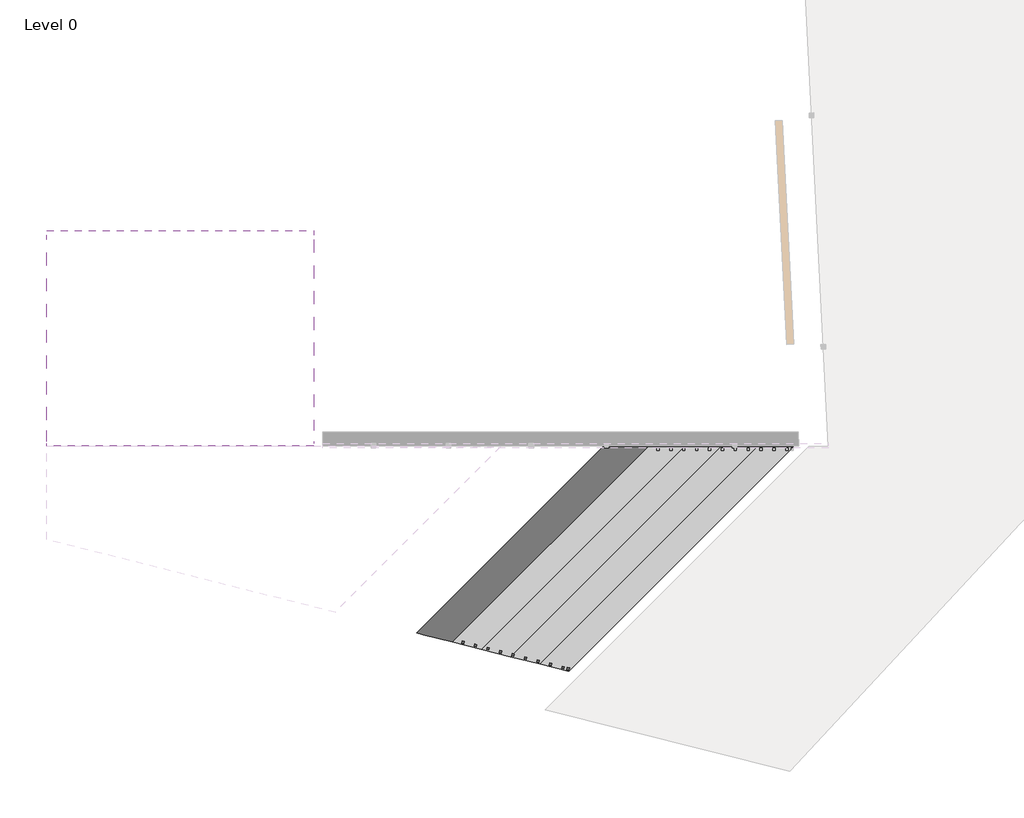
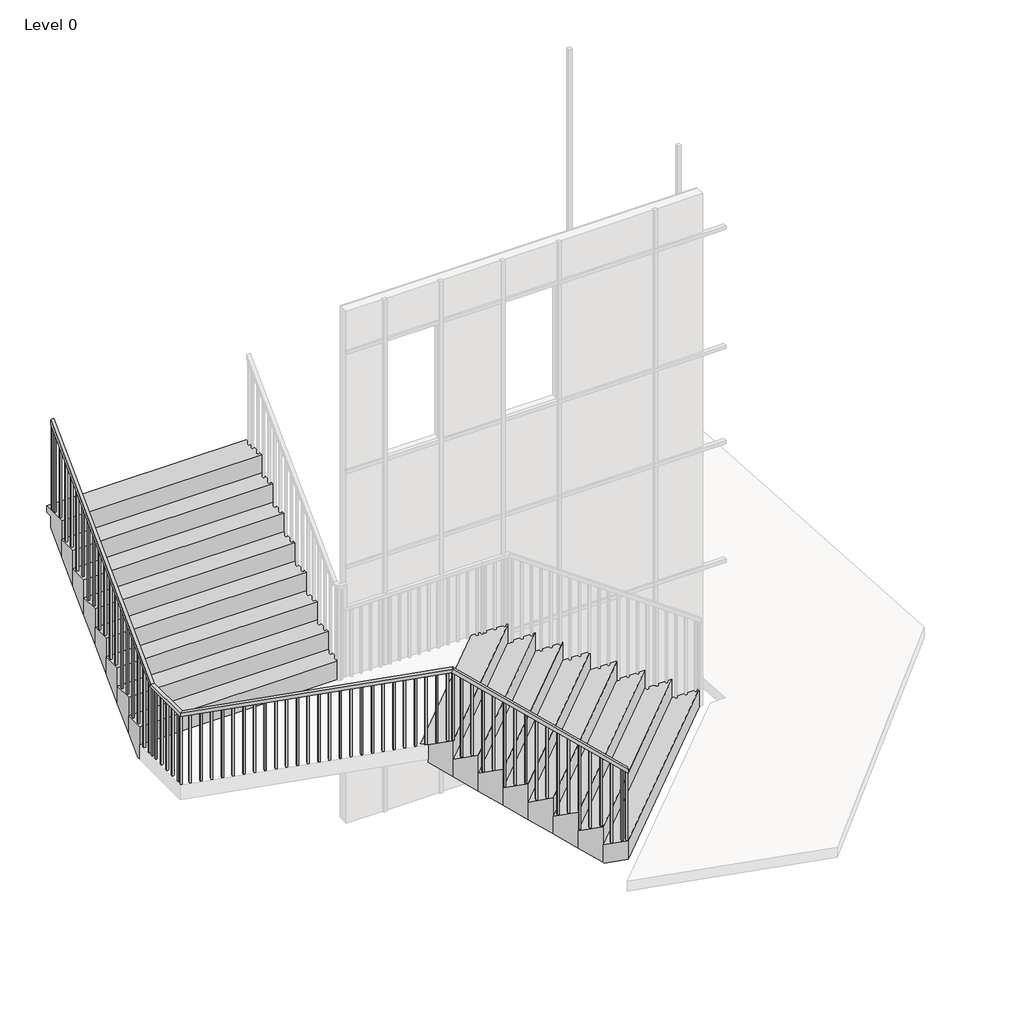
# One storey, part 4 of 6: 2 stair flights, 1 railing.
"""IFC4 building model written with IfcOpenShell, lengths in millimetres."""

from ifc_helpers import new_model, si_unit, frame, origin, place, context, project, spatial, polyline, outline, extrude, faceted_brep, element, save

model = new_model("IFC4")

# Units and contexts
model_context = context("Model", 3, world=origin())
ifc_project = project(units=[si_unit("LENGTHUNIT", "METRE", prefix="MILLI")], contexts=[model_context])

# Site, building, storey
site = spatial("IfcSite", under=ifc_project)
building = spatial("IfcBuilding", under=site)
storey = spatial("IfcBuildingStorey", under=building, Name="Level 0", Elevation=0.0)

# Railing
placement = place(None, origin())
element("IfcRailing", 1, ObjectType="1100mm", at=placement, inside=storey, context=model_context, shape_type="SolidModel", body=[
    faceted_brep([(10011.0513916, -20547.4262201, 1381.25), (10011.0513916, -20547.4262201, 1315.2160736), (10023.3046023, -20498.9508776, 1315.2160736), (10023.3046023, -20498.9508776, 1381.25), (7798.4711988, -19988.1478306, 3350.0), (7780.4514665, -19983.5929463, 3300.0), (7792.7046773, -19935.1176038, 3300.0), (7810.7244095, -19939.6724882, 3350.0), (4340.0961928, -19113.9673558, 3300.0), (4340.0961928, -19113.9673558, 3350.0), (4340.0961928, -18375.5937279, 3350.0), (4340.0961928, -18354.8177874, 3300.0), (4390.0961928, -19075.0333459, 3300.0), (4390.0961928, -18354.8177874, 3300.0), (4390.0961928, -19075.0333459, 3350.0), (4390.0961928, -18375.5937279, 3350.0), (4340.0961928, -15855.5937279, 5881.25), (4390.0961928, -15855.5937279, 5881.25), (4390.0961928, -15855.5937279, 5810.3813098), (4340.0961928, -15855.5937279, 5810.3813098)], [[[0, 1, 2, 3]], [[1, 0, 4, 5]], [[2, 1, 5, 6]], [[3, 2, 6, 7]], [[0, 3, 7, 4]], [[8, 9, 10, 11]], [[12, 8, 11, 13]], [[14, 12, 13, 15]], [[9, 14, 15, 10]], [[16, 17, 18, 19]], [[11, 10, 16, 19]], [[13, 11, 19, 18]], [[15, 13, 18, 17]], [[10, 15, 17, 16]], [[5, 4, 9, 8]], [[6, 5, 8, 12]], [[7, 6, 12, 14]], [[4, 7, 14, 9]]]),
    extrude(outline(polyline([(-15938.0937279, 5727.5130062), (-15913.0937279, 5752.6246134), (-15913.0937279, 4500.0), (-15938.0937279, 4500.0), (-15938.0937279, 5727.5130062)])), frame((4352.5961928, 0.0, 0.0), z_axis=(1.0, 0.0, 0.0), x_axis=(0.0, 1.0, 0.0)), (0.0, 0.0, 1.0), 25.0),
    extrude(outline(polyline([(-16078.0937279, 5586.8880062), (-16053.0937279, 5611.9996134), (-16053.0937279, 4500.0), (-16078.0937279, 4500.0), (-16078.0937279, 5586.8880062)])), frame((4352.5961928, 0.0, 0.0), z_axis=(1.0, 0.0, 0.0), x_axis=(0.0, 1.0, 0.0)), (0.0, 0.0, 1.0), 25.0),
    extrude(outline(polyline([(-16218.0937279, 5446.2630062), (-16193.0937279, 5471.3746134), (-16193.0937279, 4218.75), (-16218.0937279, 4218.75), (-16218.0937279, 5446.2630062)])), frame((4352.5961928, 0.0, 0.0), z_axis=(1.0, 0.0, 0.0), x_axis=(0.0, 1.0, 0.0)), (0.0, 0.0, 1.0), 25.0),
    extrude(outline(polyline([(-16358.0937279, 5305.6380062), (-16333.0937279, 5330.7496134), (-16333.0937279, 4218.75), (-16358.0937279, 4218.75), (-16358.0937279, 5305.6380062)])), frame((4352.5961928, 0.0, 0.0), z_axis=(1.0, 0.0, 0.0), x_axis=(0.0, 1.0, 0.0)), (0.0, 0.0, 1.0), 25.0),
    extrude(outline(polyline([(-16498.0937279, 5165.0130062), (-16473.0937279, 5190.1246134), (-16473.0937279, 3937.5), (-16498.0937279, 3937.5), (-16498.0937279, 5165.0130062)])), frame((4352.5961928, 0.0, 0.0), z_axis=(1.0, 0.0, 0.0), x_axis=(0.0, 1.0, 0.0)), (0.0, 0.0, 1.0), 25.0),
    extrude(outline(polyline([(-16638.0937279, 5024.3880062), (-16613.0937279, 5049.4996134), (-16613.0937279, 3937.5), (-16638.0937279, 3937.5), (-16638.0937279, 5024.3880062)])), frame((4352.5961928, 0.0, 0.0), z_axis=(1.0, 0.0, 0.0), x_axis=(0.0, 1.0, 0.0)), (0.0, 0.0, 1.0), 25.0),
    extrude(outline(polyline([(-16778.0937279, 4883.7630062), (-16753.0937279, 4908.8746134), (-16753.0937279, 3656.25), (-16778.0937279, 3656.25), (-16778.0937279, 4883.7630062)])), frame((4352.5961928, 0.0, 0.0), z_axis=(1.0, 0.0, 0.0), x_axis=(0.0, 1.0, 0.0)), (0.0, 0.0, 1.0), 25.0),
    extrude(outline(polyline([(-16918.0937279, 4743.1380062), (-16893.0937279, 4768.2496134), (-16893.0937279, 3656.25), (-16918.0937279, 3656.25), (-16918.0937279, 4743.1380062)])), frame((4352.5961928, 0.0, 0.0), z_axis=(1.0, 0.0, 0.0), x_axis=(0.0, 1.0, 0.0)), (0.0, 0.0, 1.0), 25.0),
    extrude(outline(polyline([(-17058.0937279, 4602.5130062), (-17033.0937279, 4627.6246134), (-17033.0937279, 3375.0), (-17058.0937279, 3375.0), (-17058.0937279, 4602.5130062)])), frame((4352.5961928, 0.0, 0.0), z_axis=(1.0, 0.0, 0.0), x_axis=(0.0, 1.0, 0.0)), (0.0, 0.0, 1.0), 25.0),
    extrude(outline(polyline([(-17198.0937279, 4461.8880062), (-17173.0937279, 4486.9996134), (-17173.0937279, 3375.0), (-17198.0937279, 3375.0), (-17198.0937279, 4461.8880062)])), frame((4352.5961928, 0.0, 0.0), z_axis=(1.0, 0.0, 0.0), x_axis=(0.0, 1.0, 0.0)), (0.0, 0.0, 1.0), 25.0),
    extrude(outline(polyline([(-17338.0937279, 4321.2630062), (-17313.0937279, 4346.3746134), (-17313.0937279, 3093.75), (-17338.0937279, 3093.75), (-17338.0937279, 4321.2630062)])), frame((4352.5961928, 0.0, 0.0), z_axis=(1.0, 0.0, 0.0), x_axis=(0.0, 1.0, 0.0)), (0.0, 0.0, 1.0), 25.0),
    extrude(outline(polyline([(-17478.0937279, 4180.6380062), (-17453.0937279, 4205.7496134), (-17453.0937279, 3093.75), (-17478.0937279, 3093.75), (-17478.0937279, 4180.6380062)])), frame((4352.5961928, 0.0, 0.0), z_axis=(1.0, 0.0, 0.0), x_axis=(0.0, 1.0, 0.0)), (0.0, 0.0, 1.0), 25.0),
    extrude(outline(polyline([(-17618.0937279, 4040.0130062), (-17593.0937279, 4065.1246134), (-17593.0937279, 2812.5), (-17618.0937279, 2812.5), (-17618.0937279, 4040.0130062)])), frame((4352.5961928, 0.0, 0.0), z_axis=(1.0, 0.0, 0.0), x_axis=(0.0, 1.0, 0.0)), (0.0, 0.0, 1.0), 25.0),
    extrude(outline(polyline([(-17758.0937279, 3899.3880062), (-17733.0937279, 3924.4996134), (-17733.0937279, 2812.5), (-17758.0937279, 2812.5), (-17758.0937279, 3899.3880062)])), frame((4352.5961928, 0.0, 0.0), z_axis=(1.0, 0.0, 0.0), x_axis=(0.0, 1.0, 0.0)), (0.0, 0.0, 1.0), 25.0),
    extrude(outline(polyline([(-17898.0937279, 3758.7630062), (-17873.0937279, 3783.8746134), (-17873.0937279, 2531.25), (-17898.0937279, 2531.25), (-17898.0937279, 3758.7630062)])), frame((4352.5961928, 0.0, 0.0), z_axis=(1.0, 0.0, 0.0), x_axis=(0.0, 1.0, 0.0)), (0.0, 0.0, 1.0), 25.0),
    extrude(outline(polyline([(-18038.0937279, 3618.1380062), (-18013.0937279, 3643.2496134), (-18013.0937279, 2531.25), (-18038.0937279, 2531.25), (-18038.0937279, 3618.1380062)])), frame((4352.5961928, 0.0, 0.0), z_axis=(1.0, 0.0, 0.0), x_axis=(0.0, 1.0, 0.0)), (0.0, 0.0, 1.0), 25.0),
    extrude(outline(polyline([(-18178.0937279, 3477.5130062), (-18153.0937279, 3502.6246134), (-18153.0937279, 2250.0), (-18178.0937279, 2250.0), (-18178.0937279, 3477.5130062)])), frame((4352.5961928, 0.0, 0.0), z_axis=(1.0, 0.0, 0.0), x_axis=(0.0, 1.0, 0.0)), (0.0, 0.0, 1.0), 25.0),
    extrude(outline(polyline([(-18318.0937279, 3336.8880062), (-18293.0937279, 3361.9996134), (-18293.0937279, 2250.0), (-18318.0937279, 2250.0), (-18318.0937279, 3336.8880062)])), frame((4352.5961928, 0.0, 0.0), z_axis=(1.0, 0.0, 0.0), x_axis=(0.0, 1.0, 0.0)), (0.0, 0.0, 1.0), 25.0),
    extrude(outline(polyline([(4352.5961928, -18477.0003508), (4352.5961928, -18452.0003508), (4377.5961928, -18452.0003508), (4377.5961928, -18477.0003508), (4352.5961928, -18477.0003508)])), frame((0.0, 0.0, 2250.0), z_axis=(0.0, 0.0, 1.0), x_axis=(1.0, 0.0, 0.0)), (0.0, 0.0, 1.0), 1050.0),
    extrude(outline(polyline([(4352.5961928, -18617.0003508), (4352.5961928, -18592.0003508), (4377.5961928, -18592.0003508), (4377.5961928, -18617.0003508), (4352.5961928, -18617.0003508)])), frame((0.0, 0.0, 2250.0), z_axis=(0.0, 0.0, 1.0), x_axis=(1.0, 0.0, 0.0)), (0.0, 0.0, 1.0), 1050.0),
    extrude(outline(polyline([(4352.5961928, -18757.0003508), (4352.5961928, -18732.0003508), (4377.5961928, -18732.0003508), (4377.5961928, -18757.0003508), (4352.5961928, -18757.0003508)])), frame((0.0, 0.0, 2250.0), z_axis=(0.0, 0.0, 1.0), x_axis=(1.0, 0.0, 0.0)), (0.0, 0.0, 1.0), 1050.0),
    extrude(outline(polyline([(4352.5961928, -18897.0003508), (4352.5961928, -18872.0003508), (4377.5961928, -18872.0003508), (4377.5961928, -18897.0003508), (4352.5961928, -18897.0003508)])), frame((0.0, 0.0, 2250.0), z_axis=(0.0, 0.0, 1.0), x_axis=(1.0, 0.0, 0.0)), (0.0, 0.0, 1.0), 1050.0),
    extrude(outline(polyline([(4352.5961928, -19037.0003508), (4352.5961928, -19012.0003508), (4377.5961928, -19012.0003508), (4377.5961928, -19037.0003508), (4352.5961928, -19037.0003508)])), frame((0.0, 0.0, 2250.0), z_axis=(0.0, 0.0, 1.0), x_axis=(1.0, 0.0, 0.0)), (0.0, 0.0, 1.0), 1050.0),
    extrude(outline(polyline([(4488.2448449, -19138.5220386), (4464.0071737, -19132.3954333), (4470.1337791, -19108.157762), (4494.3714503, -19114.2843674), (4488.2448449, -19138.5220386)])), frame((0.0, 0.0, 2250.0), z_axis=(0.0, 0.0, 1.0), x_axis=(1.0, 0.0, 0.0)), (0.0, 0.0, 1.0), 1050.0),
    extrude(outline(polyline([(4623.9758038, -19172.8310288), (4599.7381326, -19166.7044234), (4605.864738, -19142.4667522), (4630.1024092, -19148.5933576), (4623.9758038, -19172.8310288)])), frame((0.0, 0.0, 2250.0), z_axis=(0.0, 0.0, 1.0), x_axis=(1.0, 0.0, 0.0)), (0.0, 0.0, 1.0), 1050.0),
    extrude(outline(polyline([(4759.7067627, -19207.140019), (4735.4690914, -19201.0134136), (4741.5956968, -19176.7757424), (4765.8333681, -19182.9023477), (4759.7067627, -19207.140019)])), frame((0.0, 0.0, 2250.0), z_axis=(0.0, 0.0, 1.0), x_axis=(1.0, 0.0, 0.0)), (0.0, 0.0, 1.0), 1050.0),
    extrude(outline(polyline([(4895.4377215, -19241.4490091), (4871.2000503, -19235.3224037), (4877.3266557, -19211.0847325), (4901.5643269, -19217.2113379), (4895.4377215, -19241.4490091)])), frame((0.0, 0.0, 2250.0), z_axis=(0.0, 0.0, 1.0), x_axis=(1.0, 0.0, 0.0)), (0.0, 0.0, 1.0), 1050.0),
    extrude(outline(polyline([(5031.1686804, -19275.7579993), (5006.9310092, -19269.6313939), (5013.0576146, -19245.3937227), (5037.2952858, -19251.5203281), (5031.1686804, -19275.7579993)])), frame((0.0, 0.0, 2250.0), z_axis=(0.0, 0.0, 1.0), x_axis=(1.0, 0.0, 0.0)), (0.0, 0.0, 1.0), 1050.0),
    extrude(outline(polyline([(5166.8996393, -19310.0669895), (5142.661968, -19303.9403841), (5148.7885734, -19279.7027129), (5173.0262446, -19285.8293182), (5166.8996393, -19310.0669895)])), frame((0.0, 0.0, 2250.0), z_axis=(0.0, 0.0, 1.0), x_axis=(1.0, 0.0, 0.0)), (0.0, 0.0, 1.0), 1050.0),
    extrude(outline(polyline([(5302.6305981, -19344.3759796), (5278.3929269, -19338.2493742), (5284.5195323, -19314.011703), (5308.7572035, -19320.1383084), (5302.6305981, -19344.3759796)])), frame((0.0, 0.0, 2250.0), z_axis=(0.0, 0.0, 1.0), x_axis=(1.0, 0.0, 0.0)), (0.0, 0.0, 1.0), 1050.0),
    extrude(outline(polyline([(5438.361557, -19378.6849698), (5414.1238858, -19372.5583644), (5420.2504911, -19348.3206932), (5444.4881624, -19354.4472986), (5438.361557, -19378.6849698)])), frame((0.0, 0.0, 2250.0), z_axis=(0.0, 0.0, 1.0), x_axis=(1.0, 0.0, 0.0)), (0.0, 0.0, 1.0), 1050.0),
    extrude(outline(polyline([(5574.0925158, -19412.99396), (5549.8548446, -19406.8673546), (5555.98145, -19382.6296834), (5580.2191212, -19388.7562887), (5574.0925158, -19412.99396)])), frame((0.0, 0.0, 2250.0), z_axis=(0.0, 0.0, 1.0), x_axis=(1.0, 0.0, 0.0)), (0.0, 0.0, 1.0), 1050.0),
    extrude(outline(polyline([(5709.8234747, -19447.3029501), (5685.5858035, -19441.1763447), (5691.7124089, -19416.9386735), (5715.9500801, -19423.0652789), (5709.8234747, -19447.3029501)])), frame((0.0, 0.0, 2250.0), z_axis=(0.0, 0.0, 1.0), x_axis=(1.0, 0.0, 0.0)), (0.0, 0.0, 1.0), 1050.0),
    extrude(outline(polyline([(5845.5544336, -19481.6119403), (5821.3167623, -19475.4853349), (5827.4433677, -19451.2476637), (5851.681039, -19457.3742691), (5845.5544336, -19481.6119403)])), frame((0.0, 0.0, 2250.0), z_axis=(0.0, 0.0, 1.0), x_axis=(1.0, 0.0, 0.0)), (0.0, 0.0, 1.0), 1050.0),
    extrude(outline(polyline([(5981.2853924, -19515.9209305), (5957.0477212, -19509.7943251), (5963.1743266, -19485.5566538), (5987.4119978, -19491.6832592), (5981.2853924, -19515.9209305)])), frame((0.0, 0.0, 2250.0), z_axis=(0.0, 0.0, 1.0), x_axis=(1.0, 0.0, 0.0)), (0.0, 0.0, 1.0), 1050.0),
    extrude(outline(polyline([(6117.0163513, -19550.2299206), (6092.7786801, -19544.1033152), (6098.9052855, -19519.865644), (6123.1429567, -19525.9922494), (6117.0163513, -19550.2299206)])), frame((0.0, 0.0, 2250.0), z_axis=(0.0, 0.0, 1.0), x_axis=(1.0, 0.0, 0.0)), (0.0, 0.0, 1.0), 1050.0),
    extrude(outline(polyline([(6252.7473102, -19584.5389108), (6228.5096389, -19578.4123054), (6234.6362443, -19554.1746342), (6258.8739155, -19560.3012396), (6252.7473102, -19584.5389108)])), frame((0.0, 0.0, 2250.0), z_axis=(0.0, 0.0, 1.0), x_axis=(1.0, 0.0, 0.0)), (0.0, 0.0, 1.0), 1050.0),
    extrude(outline(polyline([(6388.478269, -19618.847901), (6364.2405978, -19612.7212956), (6370.3672032, -19588.4836243), (6394.6048744, -19594.6102297), (6388.478269, -19618.847901)])), frame((0.0, 0.0, 2250.0), z_axis=(0.0, 0.0, 1.0), x_axis=(1.0, 0.0, 0.0)), (0.0, 0.0, 1.0), 1050.0),
    extrude(outline(polyline([(6524.2092279, -19653.1568911), (6499.9715567, -19647.0302857), (6506.098162, -19622.7926145), (6530.3358333, -19628.9192199), (6524.2092279, -19653.1568911)])), frame((0.0, 0.0, 2250.0), z_axis=(0.0, 0.0, 1.0), x_axis=(1.0, 0.0, 0.0)), (0.0, 0.0, 1.0), 1050.0),
    extrude(outline(polyline([(6659.9401867, -19687.4658813), (6635.7025155, -19681.3392759), (6641.8291209, -19657.1016047), (6666.0667921, -19663.2282101), (6659.9401867, -19687.4658813)])), frame((0.0, 0.0, 2250.0), z_axis=(0.0, 0.0, 1.0), x_axis=(1.0, 0.0, 0.0)), (0.0, 0.0, 1.0), 1050.0),
    extrude(outline(polyline([(6795.6711456, -19721.7748715), (6771.4334744, -19715.6482661), (6777.5600798, -19691.4105948), (6801.797751, -19697.5372002), (6795.6711456, -19721.7748715)])), frame((0.0, 0.0, 2250.0), z_axis=(0.0, 0.0, 1.0), x_axis=(1.0, 0.0, 0.0)), (0.0, 0.0, 1.0), 1050.0),
    extrude(outline(polyline([(6931.4021045, -19756.0838616), (6907.1644332, -19749.9572562), (6913.2910386, -19725.719585), (6937.5287099, -19731.8461904), (6931.4021045, -19756.0838616)])), frame((0.0, 0.0, 2250.0), z_axis=(0.0, 0.0, 1.0), x_axis=(1.0, 0.0, 0.0)), (0.0, 0.0, 1.0), 1050.0),
    extrude(outline(polyline([(7067.1330633, -19790.3928518), (7042.8953921, -19784.2662464), (7049.0219975, -19760.0285752), (7073.2596687, -19766.1551806), (7067.1330633, -19790.3928518)])), frame((0.0, 0.0, 2250.0), z_axis=(0.0, 0.0, 1.0), x_axis=(1.0, 0.0, 0.0)), (0.0, 0.0, 1.0), 1050.0),
    extrude(outline(polyline([(7202.8640222, -19824.7018419), (7178.626351, -19818.5752366), (7184.7529564, -19794.3375653), (7208.9906276, -19800.4641707), (7202.8640222, -19824.7018419)])), frame((0.0, 0.0, 2250.0), z_axis=(0.0, 0.0, 1.0), x_axis=(1.0, 0.0, 0.0)), (0.0, 0.0, 1.0), 1050.0),
    extrude(outline(polyline([(7338.5949811, -19859.0108321), (7314.3573098, -19852.8842267), (7320.4839152, -19828.6465555), (7344.7215864, -19834.7731609), (7338.5949811, -19859.0108321)])), frame((0.0, 0.0, 2250.0), z_axis=(0.0, 0.0, 1.0), x_axis=(1.0, 0.0, 0.0)), (0.0, 0.0, 1.0), 1050.0),
    extrude(outline(polyline([(7474.3259399, -19893.3198223), (7450.0882687, -19887.1932169), (7456.2148741, -19862.9555457), (7480.4525453, -19869.0821511), (7474.3259399, -19893.3198223)])), frame((0.0, 0.0, 2250.0), z_axis=(0.0, 0.0, 1.0), x_axis=(1.0, 0.0, 0.0)), (0.0, 0.0, 1.0), 1050.0),
    extrude(outline(polyline([(7610.0568988, -19927.6288124), (7585.8192276, -19921.5022071), (7591.9458329, -19897.2645358), (7616.1835042, -19903.3911412), (7610.0568988, -19927.6288124)])), frame((0.0, 0.0, 2250.0), z_axis=(0.0, 0.0, 1.0), x_axis=(1.0, 0.0, 0.0)), (0.0, 0.0, 1.0), 1050.0),
    extrude(outline(polyline([(7745.7878576, -19961.9378026), (7721.5501864, -19955.8111972), (7727.6767918, -19931.573526), (7751.914463, -19937.7001314), (7745.7878576, -19961.9378026)])), frame((0.0, 0.0, 2250.0), z_axis=(0.0, 0.0, 1.0), x_axis=(1.0, 0.0, 0.0)), (0.0, 0.0, 1.0), 1050.0),
    extrude(outline(polyline([(110.7833188, 0.0), (89.2166812, 25.0), (1318.4502191, 25.0), (1318.4502191, 0.0), (110.7833188, 0.0)])), frame((7922.4036675, -20006.5813396, 3287.2002191), z_axis=(0.24506421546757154, 0.9695068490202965, 0.0), x_axis=(0.0, 0.0, -1.0000000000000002)), (0.0, 0.0, 1.0), 25.0),
    extrude(outline(polyline([(110.7833189, 0.0), (89.2166812, 25.0), (1197.6770485, 25.0), (1197.6770485, 0.0), (110.7833189, 0.0)])), frame((8058.1346263, -20040.8903298, 3166.4270485), z_axis=(0.24506421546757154, 0.9695068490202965, 0.0), x_axis=(0.0, 0.0, -1.0000000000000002)), (0.0, 0.0, 1.0), 25.0),
    extrude(outline(polyline([(110.7833188, 0.0), (89.2166812, 25.0), (1358.1538778, 25.0), (1358.1538778, 0.0), (110.7833188, 0.0)])), frame((8193.8655852, -20075.1993199, 3045.6538778), z_axis=(0.24506421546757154, 0.9695068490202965, 0.0), x_axis=(0.0, 0.0, -1.0000000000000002)), (0.0, 0.0, 1.0), 25.0),
    extrude(outline(polyline([(110.7833188, 0.0), (89.2166812, 25.0000001), (1237.3807071, 25.0000001), (1237.3807071, 0.0), (110.7833188, 0.0)])), frame((8329.5965441, -20109.5083101, 2924.8807071), z_axis=(0.24506421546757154, 0.9695068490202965, 0.0), x_axis=(0.0, 0.0, -1.0000000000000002)), (0.0, 0.0, 1.0), 25.0),
    extrude(outline(polyline([(110.7833188, 0.0), (89.2166812, 25.0), (1397.8575364, 25.0), (1397.8575364, 0.0), (110.7833188, 0.0)])), frame((8465.3275029, -20143.8173003, 2804.1075364), z_axis=(0.24506421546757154, 0.9695068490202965, 0.0), x_axis=(0.0, 0.0, -1.0000000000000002)), (0.0, 0.0, 1.0), 25.0),
    extrude(outline(polyline([(110.7833188, 0.0), (89.2166812, 25.0), (1277.0843657, 25.0), (1277.0843657, 0.0), (110.7833188, 0.0)])), frame((8601.0584618, -20178.1262904, 2683.3343657), z_axis=(0.24506421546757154, 0.9695068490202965, 0.0), x_axis=(0.0, 0.0, -1.0000000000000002)), (0.0, 0.0, 1.0), 25.0),
    extrude(outline(polyline([(110.7833188, 0.0), (89.2166812, 25.0000001), (1156.3111951, 25.0000001), (1156.3111951, 0.0), (110.7833188, 0.0)])), frame((8736.7894207, -20212.4352806, 2562.5611951), z_axis=(0.24506421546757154, 0.9695068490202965, 0.0), x_axis=(0.0, 0.0, -1.0000000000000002)), (0.0, 0.0, 1.0), 25.0),
    extrude(outline(polyline([(110.7833188, 0.0), (89.2166812, 25.0), (1316.7880244, 25.0), (1316.7880244, 0.0), (110.7833188, 0.0)])), frame((8872.5203795, -20246.7442708, 2441.7880244), z_axis=(0.24506421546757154, 0.9695068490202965, 0.0), x_axis=(0.0, 0.0, -1.0000000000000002)), (0.0, 0.0, 1.0), 25.0),
    extrude(outline(polyline([(110.7833188, 0.0), (89.2166812, 25.0), (1196.0148537, 25.0), (1196.0148537, 0.0), (110.7833188, 0.0)])), frame((9008.2513384, -20281.0532609, 2321.0148537), z_axis=(0.24506421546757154, 0.9695068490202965, 0.0), x_axis=(0.0, 0.0, -1.0000000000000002)), (0.0, 0.0, 1.0), 25.0),
    extrude(outline(polyline([(110.7833188, 0.0), (89.2166812, 25.0), (1356.491683, 25.0), (1356.491683, 0.0), (110.7833188, 0.0)])), frame((9143.9822972, -20315.3622511, 2200.241683), z_axis=(0.24506421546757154, 0.9695068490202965, 0.0), x_axis=(0.0, 0.0, -1.0000000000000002)), (0.0, 0.0, 1.0), 25.0),
    extrude(outline(polyline([(110.7833188, 0.0), (89.2166811, 25.0), (1235.7185123, 25.0), (1235.7185123, 0.0), (110.7833188, 0.0)])), frame((9279.7132561, -20349.6712413, 2079.4685123), z_axis=(0.24506421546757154, 0.9695068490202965, 0.0), x_axis=(0.0, 0.0, -1.0000000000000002)), (0.0, 0.0, 1.0), 25.0),
    extrude(outline(polyline([(110.7833188, 0.0), (89.2166812, 25.0), (1396.1953417, 25.0), (1396.1953417, 0.0), (110.7833188, 0.0)])), frame((9415.444215, -20383.9802314, 1958.6953417), z_axis=(0.24506421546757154, 0.9695068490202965, 0.0), x_axis=(0.0, 0.0, -1.0000000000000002)), (0.0, 0.0, 1.0), 25.0),
    extrude(outline(polyline([(110.7833188, 0.0), (89.2166812, 25.0), (1275.422171, 25.0), (1275.422171, 0.0), (110.7833188, 0.0)])), frame((9551.1751738, -20418.2892216, 1837.922171), z_axis=(0.24506421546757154, 0.9695068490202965, 0.0), x_axis=(0.0, 0.0, -1.0000000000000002)), (0.0, 0.0, 1.0), 25.0),
    extrude(outline(polyline([(110.7833188, 0.0), (89.2166812, 25.0), (1154.6490003, 25.0), (1154.6490003, 0.0), (110.7833188, 0.0)])), frame((9686.9061327, -20452.5982118, 1717.1490003), z_axis=(0.24506421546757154, 0.9695068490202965, 0.0), x_axis=(0.0, 0.0, -1.0000000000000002)), (0.0, 0.0, 1.0), 25.0),
    extrude(outline(polyline([(110.7833188, 0.0), (89.2166812, 25.0000001), (1315.1258296, 25.0000001), (1315.1258296, 0.0), (110.7833188, 0.0)])), frame((9822.6370916, -20486.9072019, 1596.3758296), z_axis=(0.24506421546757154, 0.9695068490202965, 0.0), x_axis=(0.0, 0.0, -1.0000000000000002)), (0.0, 0.0, 1.0), 25.0),
    extrude(outline(polyline([(110.7833189, 0.0), (89.2166812, 25.0), (1194.352659, 25.0), (1194.352659, 0.0), (110.7833189, 0.0)])), frame((9958.3680504, -20521.2161921, 1475.602659), z_axis=(0.24506421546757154, 0.9695068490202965, 0.0), x_axis=(0.0, 0.0, -1.0000000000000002)), (0.0, 0.0, 1.0), 25.0),
    extrude(outline(polyline([(4352.5961928, -18388.0937279), (4352.5961928, -18363.0937279), (4377.5961928, -18363.0937279), (4377.5961928, -18388.0937279), (4352.5961928, -18388.0937279)])), frame((0.0, 0.0, 2250.0), z_axis=(0.0, 0.0, 1.0), x_axis=(1.0, 0.0, 0.0)), (0.0, 0.0, 1.0), 1050.0),
    extrude(outline(polyline([(4374.1517257, -19109.6824892), (4349.9140545, -19103.5558838), (4356.0406599, -19079.3182125), (4380.2783311, -19085.4448179), (4374.1517257, -19109.6824892)])), frame((0.0, 0.0, 2250.0), z_axis=(0.0, 0.0, 1.0), x_axis=(1.0, 0.0, 0.0)), (0.0, 0.0, 1.0), 1050.0),
    extrude(outline(polyline([(110.7833188, 0.0), (89.2166812, 25.0), (1133.9660736, 25.0), (1133.9660736, 0.0), (110.7833188, 0.0)])), frame((7813.6533371, -19979.0922977, 3383.9660736), z_axis=(0.24506421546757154, 0.9695068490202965, 0.0), x_axis=(0.0, 0.0, -1.0000000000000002)), (0.0, 0.0, 1.0), 25.0),
    extrude(outline(polyline([(-15880.5937279, 5785.2697026), (-15855.5937279, 5810.3813098), (-15855.5937279, 4500.0), (-15880.5937279, 4500.0), (-15880.5937279, 5785.2697026)])), frame((4352.5961928, 0.0, 0.0), z_axis=(1.0, 0.0, 0.0), x_axis=(0.0, 1.0, 0.0)), (0.0, 0.0, 1.0), 25.0),
    extrude(outline(polyline([(110.7833188, 0.0), (89.2166812, 25.0), (1144.7493924, 25.0), (1144.7493924, 0.0), (110.7833188, 0.0)])), frame((10014.1146942, -20535.3073845, 1425.9993924), z_axis=(0.24506421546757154, 0.9695068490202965, 0.0), x_axis=(0.0, 0.0, -1.0000000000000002)), (0.0, 0.0, 1.0), 25.0),
])

# Stair flights
element("IfcStairFlight", 2, ObjectType="190mm Depth", at=placement, inside=storey, context=model_context, shape_type="Brep", body=[
    faceted_brep([(9694.8704812, -20467.91711, 281.25), (10010.9533659, -20547.8140228, 281.25), (12451.5793502, -18107.1880385, 281.25), (12055.5995527, -18107.1880385, 281.25), (9694.8704812, -20467.91711, 11.9489772), (9708.2993422, -20471.3115505, 0.0), (10010.9533659, -20547.8140228, 0.0), (12451.5793502, -18107.1880385, 0.0), (12072.4228543, -18107.1880385, 0.0), (12055.5995527, -18107.1880385, 11.9489772), (9378.7875965, -20388.0201973, 562.5), (9694.8704812, -20467.91711, 562.5), (12055.5995527, -18107.1880385, 562.5), (11659.6197553, -18107.1880385, 562.5), (9378.7875965, -20388.0201973, 293.1989772), (11659.6197553, -18107.1880385, 293.1989772), (9062.7047118, -20308.1232845, 843.75), (9378.7875965, -20388.0201973, 843.75), (11659.6197553, -18107.1880385, 843.75), (11263.6399578, -18107.1880385, 843.75), (9062.7047118, -20308.1232845, 574.4489772), (11263.6399578, -18107.1880385, 574.4489772), (8746.6218271, -20228.2263717, 1125.0), (9062.7047118, -20308.1232845, 1125.0), (11263.6399578, -18107.1880385, 1125.0), (10867.6601603, -18107.1880385, 1125.0), (8746.6218271, -20228.2263717, 855.6989772), (10867.6601603, -18107.1880385, 855.6989772), (8430.5389425, -20148.3294589, 1406.25), (8746.6218271, -20228.2263717, 1406.25), (10867.6601603, -18107.1880385, 1406.25), (10471.6803629, -18107.1880385, 1406.25), (8430.5389425, -20148.3294589, 1136.9489772), (10471.6803629, -18107.1880385, 1136.9489772), (8114.4560578, -20068.4325461, 1687.5), (8430.5389425, -20148.3294589, 1687.5), (10471.6803629, -18107.1880385, 1687.5), (10075.7005654, -18107.1880385, 1687.5), (8114.4560578, -20068.4325461, 1418.1989772), (10075.7005654, -18107.1880385, 1418.1989772), (7798.3731731, -19988.5356334, 1968.75), (8114.4560578, -20068.4325461, 1968.75), (10075.7005654, -18107.1880385, 1968.75), (9679.7207679, -18107.1880385, 1968.75), (7798.3731731, -19988.5356334, 1699.4489772), (9679.7207679, -18107.1880385, 1699.4489772), (7482.2902884, -19908.6387206, 2250.0), (7798.3731731, -19988.5356334, 2250.0), (9679.7207679, -18107.1880385, 2250.0), (9283.7409705, -18107.1880385, 2250.0), (9213.0302924, -18036.4773604, 2250.0), (7411.5796103, -19837.9280425, 2250.0), (7482.2902884, -19908.6387206, 2150.0), (7482.2902884, -19908.6387206, 1980.6989772), (9283.7409705, -18107.1880385, 1980.6989772), (9283.7409705, -18107.1880385, 2150.0), (9213.0302924, -18036.4773604, 2150.0), (7411.5796103, -19837.9280425, 2150.0)], [[[0, 1, 2, 3]], [[1, 0, 4, 5, 6]], [[2, 1, 6, 7]], [[3, 2, 7, 8, 9]], [[10, 11, 12, 13]], [[11, 10, 14, 4, 0]], [[0, 3, 12, 11]], [[13, 12, 3, 9, 15]], [[16, 17, 18, 19]], [[17, 16, 20, 14, 10]], [[10, 13, 18, 17]], [[19, 18, 13, 15, 21]], [[22, 23, 24, 25]], [[23, 22, 26, 20, 16]], [[16, 19, 24, 23]], [[25, 24, 19, 21, 27]], [[28, 29, 30, 31]], [[29, 28, 32, 26, 22]], [[22, 25, 30, 29]], [[31, 30, 25, 27, 33]], [[34, 35, 36, 37]], [[35, 34, 38, 32, 28]], [[28, 31, 36, 35]], [[37, 36, 31, 33, 39]], [[40, 41, 42, 43]], [[41, 40, 44, 38, 34]], [[34, 37, 42, 41]], [[43, 42, 37, 39, 45]], [[46, 47, 48, 49, 50, 51]], [[47, 46, 52, 53, 44, 40]], [[40, 43, 48, 47]], [[49, 48, 43, 45, 54, 55]], [[54, 53, 52, 55]], [[7, 6, 5, 8]], [[8, 5, 4, 14, 20, 26, 32, 38, 44, 53, 54, 45, 39, 33, 27, 21, 15, 9]], [[56, 55, 52, 57]], [[55, 56, 50, 49]], [[56, 57, 51, 50]], [[57, 52, 46, 51]]]),
])
element("IfcStairFlight", 3, ObjectType="190mm Depth", at=placement, inside=storey, context=model_context, shape_type="Brep", body=[
    faceted_brep([(4339.6961928, -18095.5937279, 2531.25), (7239.6961806, -18095.5937279, 2531.25), (7239.6961806, -18046.5118207, 2531.25), (7239.6961806, -17815.5937279, 2531.25), (4339.6961928, -17815.5937279, 2531.25), (4339.6961928, -18046.5118207, 2531.25), (4339.6961928, -17815.5937279, 2261.9489772), (4339.6961928, -18046.5118207, 2030.0), (4339.6961928, -18095.5937279, 2030.0), (7239.6961806, -18095.5937279, 2030.0), (7239.6961806, -18046.5118207, 2030.0), (7239.6961806, -17815.5937279, 2261.9489772), (4339.6961928, -17535.5937279, 2812.5), (4339.6961928, -17815.5937279, 2812.5), (7239.6961806, -17815.5937279, 2812.5), (7239.6961806, -17535.5937279, 2812.5), (4339.6961928, -17535.5937279, 2543.1989772), (7239.6961806, -17535.5937279, 2543.1989772), (4339.6961928, -17255.5937279, 3093.75), (4339.6961928, -17535.5937279, 3093.75), (7239.6961806, -17535.5937279, 3093.75), (7239.6961806, -17255.5937279, 3093.75), (4339.6961928, -17255.5937279, 2824.4489772), (7239.6961806, -17255.5937279, 2824.4489772), (4339.6961928, -16975.5937279, 3375.0), (4339.6961928, -17255.5937279, 3375.0), (7239.6961806, -17255.5937279, 3375.0), (7239.6961806, -16975.5937279, 3375.0), (4339.6961928, -16975.5937279, 3105.6989772), (7239.6961806, -16975.5937279, 3105.6989772), (4339.6961928, -16695.5937279, 3656.25), (4339.6961928, -16975.5937279, 3656.25), (7239.6961806, -16975.5937279, 3656.25), (7239.6961806, -16695.5937279, 3656.25), (4339.6961928, -16695.5937279, 3386.9489772), (7239.6961806, -16695.5937279, 3386.9489772), (4339.6961928, -16415.5937279, 3937.5), (4339.6961928, -16695.5937279, 3937.5), (7239.6961806, -16695.5937279, 3937.5), (7239.6961806, -16415.5937279, 3937.5), (4339.6961928, -16415.5937279, 3668.1989772), (7239.6961806, -16415.5937279, 3668.1989772), (4339.6961928, -16135.5937279, 4218.75), (4339.6961928, -16415.5937279, 4218.75), (7239.6961806, -16415.5937279, 4218.75), (7239.6961806, -16135.5937279, 4218.75), (4339.6961928, -16135.5937279, 3949.4489772), (7239.6961806, -16135.5937279, 3949.4489772), (4339.6961928, -16135.5937279, 4500.0), (7239.6961806, -16135.5937279, 4500.0), (7239.6961806, -15755.5937279, 4500.0), (4339.6961928, -15755.5937279, 4500.0), (4339.6961928, -15755.5937279, 4400.0), (4339.6961928, -15855.5937279, 4400.0), (4339.6961928, -15855.5937279, 4230.6989772), (7239.6961806, -15855.5937279, 4230.6989772), (7239.6961806, -15855.5937279, 4400.0), (7239.6961806, -15755.5937279, 4400.0)], [[[0, 1, 2, 3, 4, 5]], [[4, 6, 7, 8, 0, 5]], [[1, 0, 8, 9]], [[1, 9, 10, 11, 3, 2]], [[12, 13, 14, 15]], [[13, 12, 16, 6, 4]], [[14, 13, 4, 3]], [[15, 14, 3, 11, 17]], [[18, 19, 20, 21]], [[19, 18, 22, 16, 12]], [[20, 19, 12, 15]], [[21, 20, 15, 17, 23]], [[24, 25, 26, 27]], [[25, 24, 28, 22, 18]], [[26, 25, 18, 21]], [[27, 26, 21, 23, 29]], [[30, 31, 32, 33]], [[31, 30, 34, 28, 24]], [[32, 31, 24, 27]], [[33, 32, 27, 29, 35]], [[36, 37, 38, 39]], [[37, 36, 40, 34, 30]], [[38, 37, 30, 33]], [[39, 38, 33, 35, 41]], [[42, 43, 44, 45]], [[43, 42, 46, 40, 36]], [[44, 43, 36, 39]], [[45, 44, 39, 41, 47]], [[48, 49, 50, 51]], [[48, 51, 52, 53, 54, 46, 42]], [[49, 48, 42, 45]], [[50, 49, 45, 47, 55, 56, 57]], [[55, 54, 53, 56]], [[10, 7, 6, 16, 22, 28, 34, 40, 46, 54, 55, 47, 41, 35, 29, 23, 17, 11]], [[7, 10, 9, 8]], [[57, 56, 53, 52]], [[57, 52, 51, 50]]]),
])

save(model, "model.ifc")
